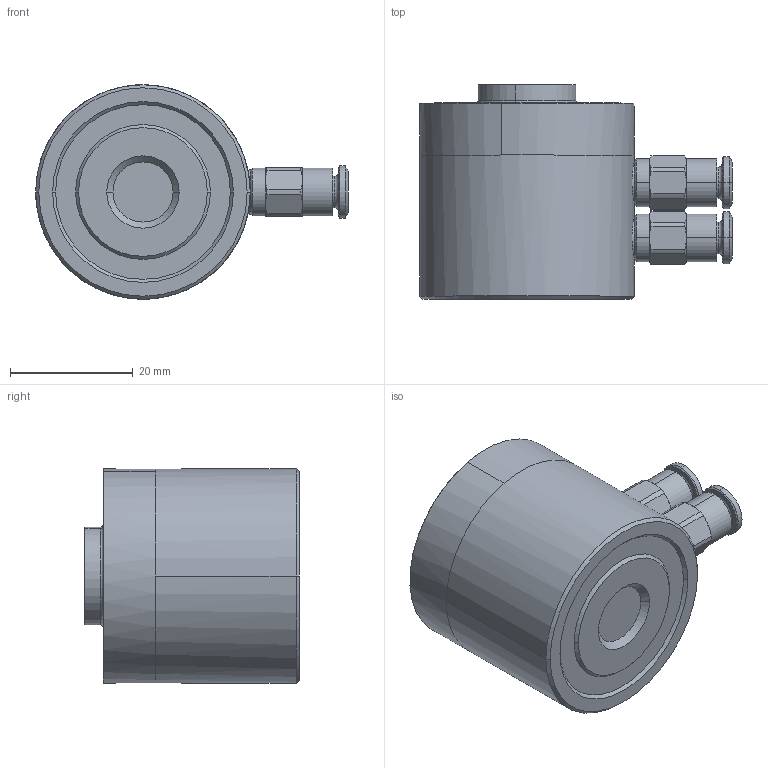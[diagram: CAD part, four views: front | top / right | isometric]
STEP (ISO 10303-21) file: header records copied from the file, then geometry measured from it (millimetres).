
FILE_DESCRIPTION (( 'STEP AP214' ), '1' );
FILE_NAME ('MAP-6 3D-model b.STEP', '2016-06-27T07:31:39', ( '' ), ( '' ), 'SwSTEP 2.0', 'SolidWorks 2016', '' );
FILE_SCHEMA (( 'AUTOMOTIVE_DESIGN' ));
Length unit declared in the file: millimetre
Products named in the file (1): MAP-6 3D-model b
Bounding box: 51 x 35 x 35 mm (x, y, z)
Volume: 32293.5 mm3; surface area: 6981.7 mm2
Topology: 1 solids, 1 shells, 131 faces, 284 edges, 170 vertices
Faces by surface type: cone 48, cylinder 46, plane 31, torus 6
Entity records: 3816 total; most frequent: CARTESIAN_POINT 912, DIRECTION 644, ORIENTED_EDGE 568, EDGE_CURVE 284, AXIS2_PLACEMENT_3D 282, VERTEX_POINT 170, CIRCLE 150, EDGE_LOOP 146
